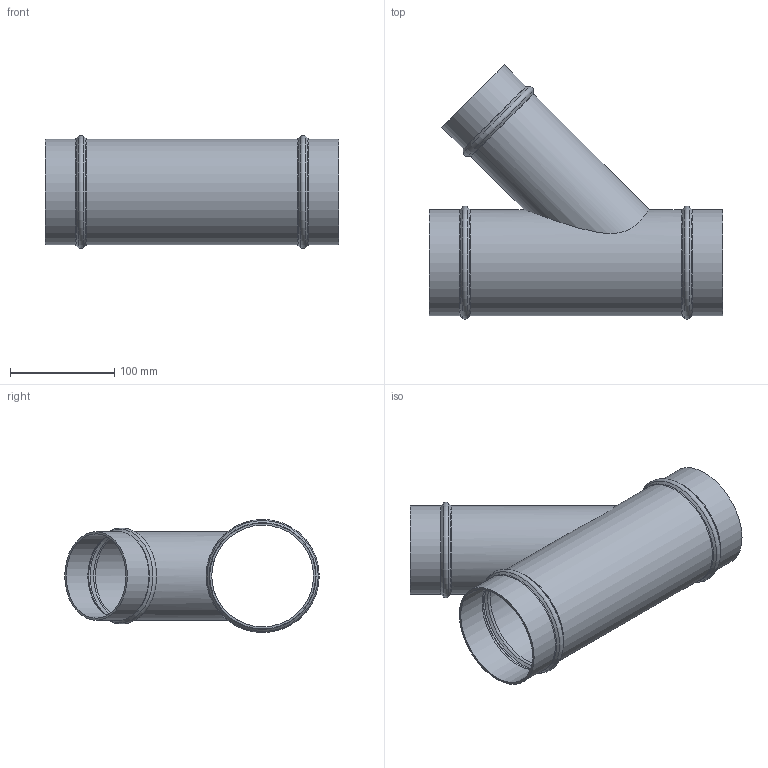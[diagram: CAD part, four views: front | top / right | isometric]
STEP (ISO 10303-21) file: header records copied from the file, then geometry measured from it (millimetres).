
FILE_DESCRIPTION(/* description */ (''),/* implementation_level */ '2;1');
FILE_NAME(/* name */ '30212080701 2016 8712 00.stp',/* time_stamp */ '2024-03-13T09:34:50+08:00',/* author */ (''),/* organization */ (''),/* preprocessor_version */ 'ST-DEVELOPER v11',/* originating_system */ 'SIEMENS PLM Software NX 7.5',/* authorisation */ '');
FILE_SCHEMA (('CONFIG_CONTROL_DESIGN'));
Length unit declared in the file: millimetre
Products named in the file (1): AdmiE02318ep
Bounding box: 282 x 244.15 x 108.58 mm (x, y, z)
Volume: 253419.3 mm3; surface area: 255094.2 mm2
Topology: 1 solids, 1 shells, 43 faces, 85 edges, 45 vertices
Faces by surface type: torus 18, cone 12, cylinder 10, plane 3
Full cylindrical faces by diameter (mm): 81 x2, 85 x2, 97.6 x3, 101.6 x3
Entity records: 1072 total; most frequent: CARTESIAN_POINT 242, DIRECTION 172, FACE_BOUND 88, EDGE_LOOP 88, ORIENTED_EDGE 88, AXIS2_PLACEMENT_3D 86, VERTEX_POINT 44, EDGE_CURVE 44
